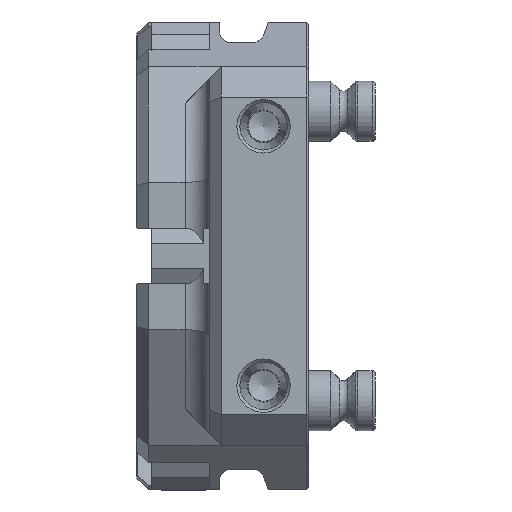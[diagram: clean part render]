
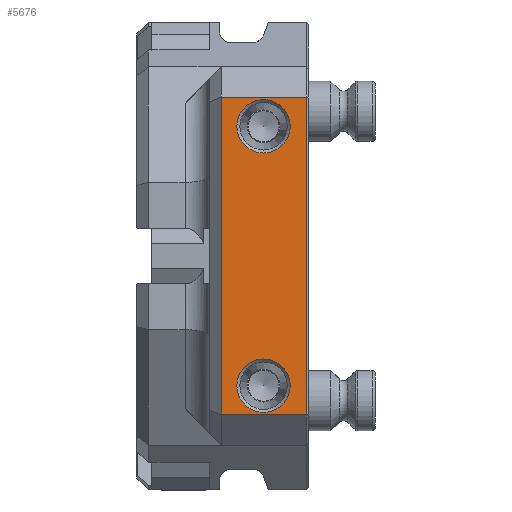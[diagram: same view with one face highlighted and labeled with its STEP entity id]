
A CAD part, left-side view. The second image highlights one B-rep face of the part: STEP entity #5676.
In plain terms, the highlighted planar face has unit normal (-1, 0, 0).
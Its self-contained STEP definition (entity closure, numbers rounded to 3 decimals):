
#391 = ORIENTED_EDGE ( 'NONE', *, *, #23099, .T. ) ;
#1061 = DIRECTION ( 'NONE',  ( 0., 1., 0. ) ) ;
#3433 = VERTEX_POINT ( 'NONE', #34385 ) ;
#4195 = CARTESIAN_POINT ( 'NONE',  ( -105., 29., 52.725 ) ) ;
#4386 = CARTESIAN_POINT ( 'NONE',  ( -105., 15., 34.141 ) ) ;
#4504 = EDGE_CURVE ( 'NONE', #4914, #11051, #22832, .T. ) ;
#4527 = FACE_OUTER_BOUND ( 'NONE', #16065, .T. ) ;
#4914 = VERTEX_POINT ( 'NONE', #10306 ) ;
#5064 = VECTOR ( 'NONE', #13577, 1000. ) ;
#5245 = ORIENTED_EDGE ( 'NONE', *, *, #22354, .T. ) ;
#5676 = ADVANCED_FACE ( 'NONE', ( #15285, #18065, #4527 ), #25775, .F. ) ;
#6461 = ORIENTED_EDGE ( 'NONE', *, *, #28567, .T. ) ;
#8904 = CIRCLE ( 'NONE', #21709, 8.859 ) ;
#10306 = CARTESIAN_POINT ( 'NONE',  ( -105., 0.8, 52.725 ) ) ;
#11051 = VERTEX_POINT ( 'NONE', #4195 ) ;
#11226 = CARTESIAN_POINT ( 'NONE',  ( -105., -0.2, -77.7 ) ) ;
#13129 = AXIS2_PLACEMENT_3D ( 'NONE', #11226, #29250, #22390 ) ;
#13561 = CARTESIAN_POINT ( 'NONE',  ( -105., 15., -34.141 ) ) ;
#13577 = DIRECTION ( 'NONE',  ( 0., 0., -1. ) ) ;
#14979 = VERTEX_POINT ( 'NONE', #4386 ) ;
#15285 = FACE_BOUND ( 'NONE', #31031, .T. ) ;
#15732 = VECTOR ( 'NONE', #1061, 1000. ) ;
#16065 = EDGE_LOOP ( 'NONE', ( #22651, #5245, #6461, #391 ) ) ;
#16316 = DIRECTION ( 'NONE',  ( 0., 0., 1. ) ) ;
#16487 = CARTESIAN_POINT ( 'NONE',  ( -105., 0.8, -77.7 ) ) ;
#18065 = FACE_BOUND ( 'NONE', #30031, .T. ) ;
#18213 = CARTESIAN_POINT ( 'NONE',  ( -105., 15., -43. ) ) ;
#20631 = EDGE_CURVE ( 'NONE', #14979, #14979, #8904, .T. ) ;
#21200 = AXIS2_PLACEMENT_3D ( 'NONE', #18213, #23481, #26253 ) ;
#21709 = AXIS2_PLACEMENT_3D ( 'NONE', #23535, #28945, #34158 ) ;
#22023 = VERTEX_POINT ( 'NONE', #27412 ) ;
#22354 = EDGE_CURVE ( 'NONE', #11051, #3433, #29119, .T. ) ;
#22390 = DIRECTION ( 'NONE',  ( 0., 0., -1. ) ) ;
#22651 = ORIENTED_EDGE ( 'NONE', *, *, #4504, .T. ) ;
#22832 = LINE ( 'NONE', #24933, #15732 ) ;
#23099 = EDGE_CURVE ( 'NONE', #22023, #4914, #27671, .T. ) ;
#23481 = DIRECTION ( 'NONE',  ( -1., 0., 0. ) ) ;
#23535 = CARTESIAN_POINT ( 'NONE',  ( -105., 15., 43. ) ) ;
#24248 = LINE ( 'NONE', #32626, #24824 ) ;
#24824 = VECTOR ( 'NONE', #26666, 1000. ) ;
#24933 = CARTESIAN_POINT ( 'NONE',  ( -105., 33., 52.725 ) ) ;
#25174 = VECTOR ( 'NONE', #16316, 1000. ) ;
#25775 = PLANE ( 'NONE',  #13129 ) ;
#26253 = DIRECTION ( 'NONE',  ( 0., 0., 1. ) ) ;
#26666 = DIRECTION ( 'NONE',  ( 0., -1., 0. ) ) ;
#27186 = ORIENTED_EDGE ( 'NONE', *, *, #20631, .T. ) ;
#27412 = CARTESIAN_POINT ( 'NONE',  ( -105., 0.8, -52.725 ) ) ;
#27671 = LINE ( 'NONE', #16487, #25174 ) ;
#28567 = EDGE_CURVE ( 'NONE', #3433, #22023, #24248, .T. ) ;
#28945 = DIRECTION ( 'NONE',  ( 1., 0., 0. ) ) ;
#29119 = LINE ( 'NONE', #31893, #5064 ) ;
#29250 = DIRECTION ( 'NONE',  ( 1., 0., 0. ) ) ;
#29441 = VERTEX_POINT ( 'NONE', #13561 ) ;
#30031 = EDGE_LOOP ( 'NONE', ( #32528 ) ) ;
#31031 = EDGE_LOOP ( 'NONE', ( #27186 ) ) ;
#31893 = CARTESIAN_POINT ( 'NONE',  ( -105., 29., -52.725 ) ) ;
#32357 = CIRCLE ( 'NONE', #21200, 8.859 ) ;
#32528 = ORIENTED_EDGE ( 'NONE', *, *, #33585, .F. ) ;
#32626 = CARTESIAN_POINT ( 'NONE',  ( -105., -0.2, -52.725 ) ) ;
#33585 = EDGE_CURVE ( 'NONE', #29441, #29441, #32357, .T. ) ;
#34158 = DIRECTION ( 'NONE',  ( 0., 0., -1. ) ) ;
#34385 = CARTESIAN_POINT ( 'NONE',  ( -105., 29., -52.725 ) ) ;
